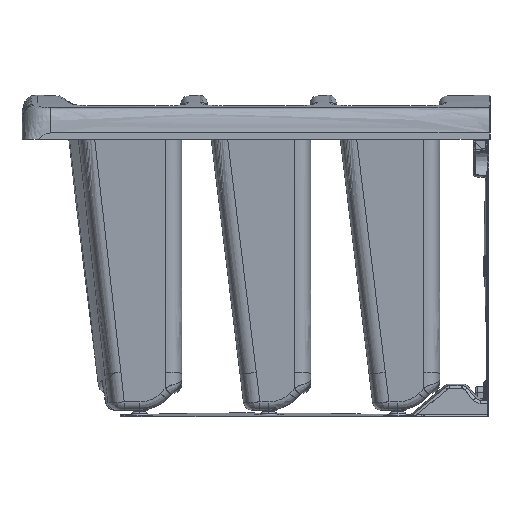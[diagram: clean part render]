
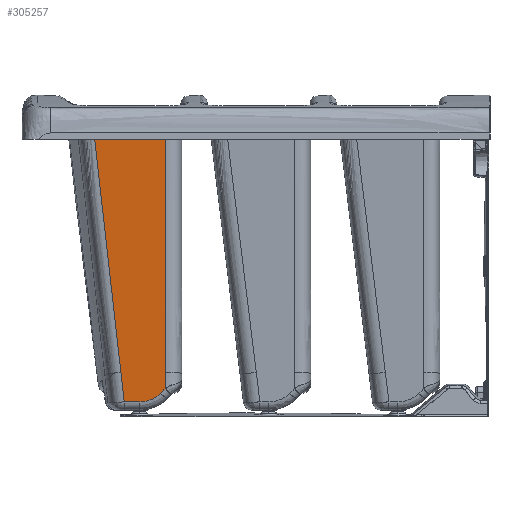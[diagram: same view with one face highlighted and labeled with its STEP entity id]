
A CAD part, left-side view. The second image highlights one B-rep face of the part: STEP entity #305257.
In plain terms, the highlighted planar face has unit normal (-0.996, 0, -0.087).
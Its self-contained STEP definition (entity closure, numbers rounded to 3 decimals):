
#2106 = EDGE_LOOP ( 'NONE', ( #5991, #213823, #29587, #2810, #106267, #34471, #72807, #279572 ) ) ;
#2366 = CARTESIAN_POINT ( 'NONE',  ( -248.971, 574.48, 25.28 ) ) ;
#2810 = ORIENTED_EDGE ( 'NONE', *, *, #266098, .T. ) ;
#2823 = CARTESIAN_POINT ( 'NONE',  ( -248.971, 550.186, 25.28 ) ) ;
#5991 = ORIENTED_EDGE ( 'NONE', *, *, #77649, .T. ) ;
#6429 = CARTESIAN_POINT ( 'NONE',  ( -248.971, 550.186, 25.28 ) ) ;
#21196 = DIRECTION ( 'NONE',  ( 0.996, 0., 0.087 ) ) ;
#25478 = VERTEX_POINT ( 'NONE', #43284 ) ;
#29587 = ORIENTED_EDGE ( 'NONE', *, *, #34957, .T. ) ;
#30216 = CARTESIAN_POINT ( 'NONE',  ( -276.811, 510.333, 343.495 ) ) ;
#34471 = ORIENTED_EDGE ( 'NONE', *, *, #235384, .F. ) ;
#34957 = EDGE_CURVE ( 'NONE', #214190, #172666, #242951, .T. ) ;
#43284 = CARTESIAN_POINT ( 'NONE',  ( -250.175, 516.952, 39.046 ) ) ;
#50029 = CARTESIAN_POINT ( 'NONE',  ( -252.98, 579.67, 71.108 ) ) ;
#51636 = CARTESIAN_POINT ( 'NONE',  ( -288.726, 625.635, 479.683 ) ) ;
#52493 = CARTESIAN_POINT ( 'NONE',  ( -248.971, 0., 25.28 ) ) ;
#53132 = CARTESIAN_POINT ( 'NONE',  ( -248.971, 537.554, 25.28 ) ) ;
#55986 = VECTOR ( 'NONE', #312796, 1000. ) ;
#59082 = CARTESIAN_POINT ( 'NONE',  ( -250.307, 576.21, 40.556 ) ) ;
#72807 = ORIENTED_EDGE ( 'NONE', *, *, #238945, .F. ) ;
#77649 = EDGE_CURVE ( 'NONE', #147384, #317578, #147072, .T. ) ;
#86151 = VECTOR ( 'NONE', #293890, 1000. ) ;
#86567 = CARTESIAN_POINT ( 'NONE',  ( -288.726, 625.635, 479.683 ) ) ;
#92637 = LINE ( 'NONE', #271140, #86151 ) ;
#99675 = LINE ( 'NONE', #52493, #118189 ) ;
#106267 = ORIENTED_EDGE ( 'NONE', *, *, #270884, .F. ) ;
#106293 = CARTESIAN_POINT ( 'NONE',  ( -252.98, 579.67, 71.108 ) ) ;
#114728 = LINE ( 'NONE', #213748, #55986 ) ;
#118189 = VECTOR ( 'NONE', #128787, 1000. ) ;
#124037 = CARTESIAN_POINT ( 'NONE',  ( -288.726, 510.333, 479.683 ) ) ;
#128787 = DIRECTION ( 'NONE',  ( 0., 1., 0. ) ) ;
#130200 = CARTESIAN_POINT ( 'NONE',  ( -248.971, 574.48, 25.28 ) ) ;
#142271 = B_SPLINE_CURVE_WITH_KNOTS ( 'NONE', 3,
 ( #208569, #185820, #158242, #156654 ),
 .UNSPECIFIED., .F., .F.,
 ( 4, 4 ),
 ( 0., 1. ),
 .UNSPECIFIED. ) ;
#147072 = B_SPLINE_CURVE_WITH_KNOTS ( 'NONE', 3,
 ( #277049, #252685, #30216, #220363 ),
 .UNSPECIFIED., .F., .F.,
 ( 4, 4 ),
 ( 0., 1. ),
 .UNSPECIFIED. ) ;
#147384 = VERTEX_POINT ( 'NONE', #173714 ) ;
#156654 = CARTESIAN_POINT ( 'NONE',  ( -252.981, 510.333, 71.118 ) ) ;
#158242 = CARTESIAN_POINT ( 'NONE',  ( -252.239, 510.333, 62.633 ) ) ;
#162597 = VERTEX_POINT ( 'NONE', #315052 ) ;
#169478 = B_SPLINE_CURVE_WITH_KNOTS ( 'NONE', 3,
 ( #231211, #304303, #59082, #2366 ),
 .UNSPECIFIED., .F., .F.,
 ( 4, 4 ),
 ( 0., 1. ),
 .UNSPECIFIED. ) ;
#172666 = VERTEX_POINT ( 'NONE', #106293 ) ;
#173714 = CARTESIAN_POINT ( 'NONE',  ( -252.981, 510.333, 71.118 ) ) ;
#176652 = CARTESIAN_POINT ( 'NONE',  ( -264.772, 594.931, 205.891 ) ) ;
#185820 = CARTESIAN_POINT ( 'NONE',  ( -251.496, 510.333, 54.149 ) ) ;
#194925 = FACE_OUTER_BOUND ( 'NONE', #2106, .T. ) ;
#208569 = CARTESIAN_POINT ( 'NONE',  ( -250.754, 510.333, 45.665 ) ) ;
#213748 = CARTESIAN_POINT ( 'NONE',  ( -288.726, 735., 479.683 ) ) ;
#213823 = ORIENTED_EDGE ( 'NONE', *, *, #276211, .T. ) ;
#214190 = VERTEX_POINT ( 'NONE', #86567 ) ;
#220363 = CARTESIAN_POINT ( 'NONE',  ( -288.726, 510.333, 479.683 ) ) ;
#220604 = EDGE_CURVE ( 'NONE', #162597, #147384, #142271, .T. ) ;
#225286 = CARTESIAN_POINT ( 'NONE',  ( -250.175, 516.952, 39.046 ) ) ;
#231211 = CARTESIAN_POINT ( 'NONE',  ( -252.98, 579.67, 71.108 ) ) ;
#231719 = AXIS2_PLACEMENT_3D ( 'NONE', #243654, #21196, #266423 ) ;
#235384 = EDGE_CURVE ( 'NONE', #25478, #321222, #292434, .T. ) ;
#238945 = EDGE_CURVE ( 'NONE', #162597, #25478, #92637, .T. ) ;
#241426 = VERTEX_POINT ( 'NONE', #130200 ) ;
#242951 = B_SPLINE_CURVE_WITH_KNOTS ( 'NONE', 3,
 ( #51636, #278881, #176652, #50029 ),
 .UNSPECIFIED., .F., .F.,
 ( 4, 4 ),
 ( 0., 1. ),
 .UNSPECIFIED. ) ;
#243654 = CARTESIAN_POINT ( 'NONE',  ( -291.108, 0., 506.913 ) ) ;
#252685 = CARTESIAN_POINT ( 'NONE',  ( -264.896, 510.333, 207.306 ) ) ;
#266098 = EDGE_CURVE ( 'NONE', #172666, #241426, #169478, .T. ) ;
#266423 = DIRECTION ( 'NONE',  ( 0., -1., 0. ) ) ;
#270884 = EDGE_CURVE ( 'NONE', #321222, #241426, #99675, .T. ) ;
#271140 = CARTESIAN_POINT ( 'NONE',  ( -293.247, 24.636, 531.362 ) ) ;
#275605 = CARTESIAN_POINT ( 'NONE',  ( -249.393, 525.884, 30.114 ) ) ;
#276211 = EDGE_CURVE ( 'NONE', #317578, #214190, #114728, .T. ) ;
#277049 = CARTESIAN_POINT ( 'NONE',  ( -252.981, 510.333, 71.118 ) ) ;
#278881 = CARTESIAN_POINT ( 'NONE',  ( -276.687, 610.253, 342.083 ) ) ;
#279572 = ORIENTED_EDGE ( 'NONE', *, *, #220604, .T. ) ;
#292434 =( BOUNDED_CURVE ( )  B_SPLINE_CURVE ( 3, ( #225286, #275605, #53132, #2823 ),
 .UNSPECIFIED., .F., .F. ) 
 B_SPLINE_CURVE_WITH_KNOTS ( ( 4, 4 ),
 ( 2.356, 3.142 ),
 .UNSPECIFIED. ) 
 CURVE ( )  GEOMETRIC_REPRESENTATION_ITEM ( )  RATIONAL_B_SPLINE_CURVE ( ( 1., 0.949, 0.949, 1. ) ) 
 REPRESENTATION_ITEM ( '' )  );
#293890 = DIRECTION ( 'NONE',  ( 0.062, 0.706, -0.706 ) ) ;
#293962 = PLANE ( 'NONE',  #231719 ) ;
#304303 = CARTESIAN_POINT ( 'NONE',  ( -251.643, 577.94, 55.832 ) ) ;
#305257 = ADVANCED_FACE ( 'NONE', ( #194925 ), #293962, .F. ) ;
#312796 = DIRECTION ( 'NONE',  ( 0., 1., 0. ) ) ;
#315052 = CARTESIAN_POINT ( 'NONE',  ( -250.754, 510.333, 45.665 ) ) ;
#317578 = VERTEX_POINT ( 'NONE', #124037 ) ;
#321222 = VERTEX_POINT ( 'NONE', #6429 ) ;
